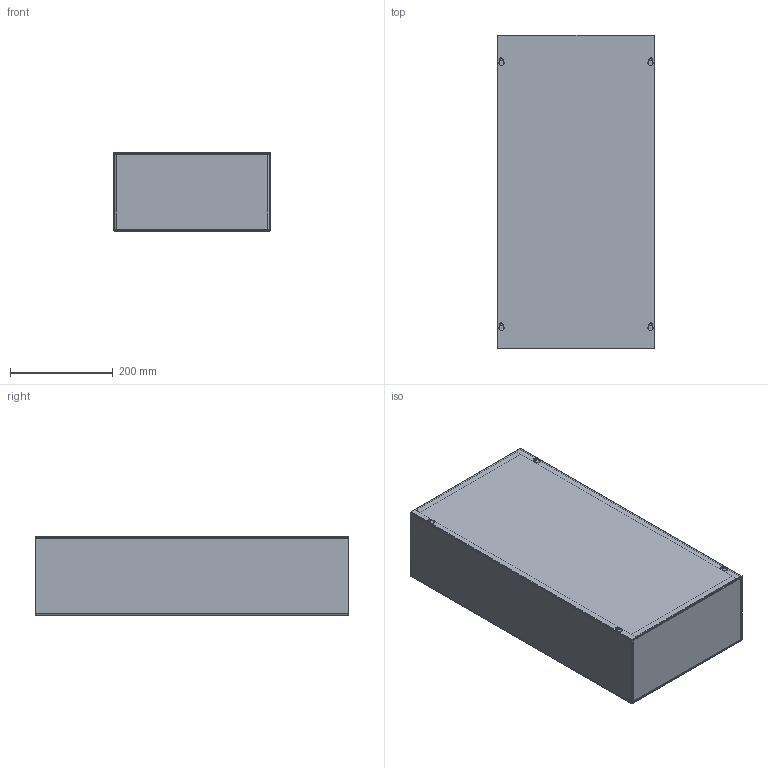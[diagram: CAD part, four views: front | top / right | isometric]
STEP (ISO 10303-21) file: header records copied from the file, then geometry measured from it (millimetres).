
FILE_DESCRIPTION (( 'STEP AP203' ), '1' );
FILE_NAME ('ase24x12x6nk.STEP', '2011-02-04T17:25:16', ( 'Hoffman User' ), ( 'Hoffman Enclosures' ), 'SwSTEP 2.0', 'SolidWorks 2009', '' );
FILE_SCHEMA (( 'CONFIG_CONTROL_DESIGN' ));
Length unit declared in the file: inch
Products named in the file (5): 87757696; 89054629_89050076; ase24x12x6nk; 43306033; 87757693
Assembly tree (5 placements, depth 3):
  ase24x12x6nk
    87757696
    89054629_89050076
      87757693
      43306033  x2
Bounding box: 304.8 x 609.6 x 153.8 mm (x, y, z)
Volume: 950302.1 mm3; surface area: 1369773.7 mm2
Topology: 4 solids, 4 shells, 189 faces, 432 edges, 254 vertices
Faces by surface type: plane 107, cylinder 60, torus 10, bspline 8, cone 4
Entity records: 5187 total; most frequent: CARTESIAN_POINT 1170, DIRECTION 764, ORIENTED_EDGE 684, EDGE_CURVE 342, AXIS2_PLACEMENT_3D 278, VECTOR 208, LINE 208, VERTEX_POINT 204
